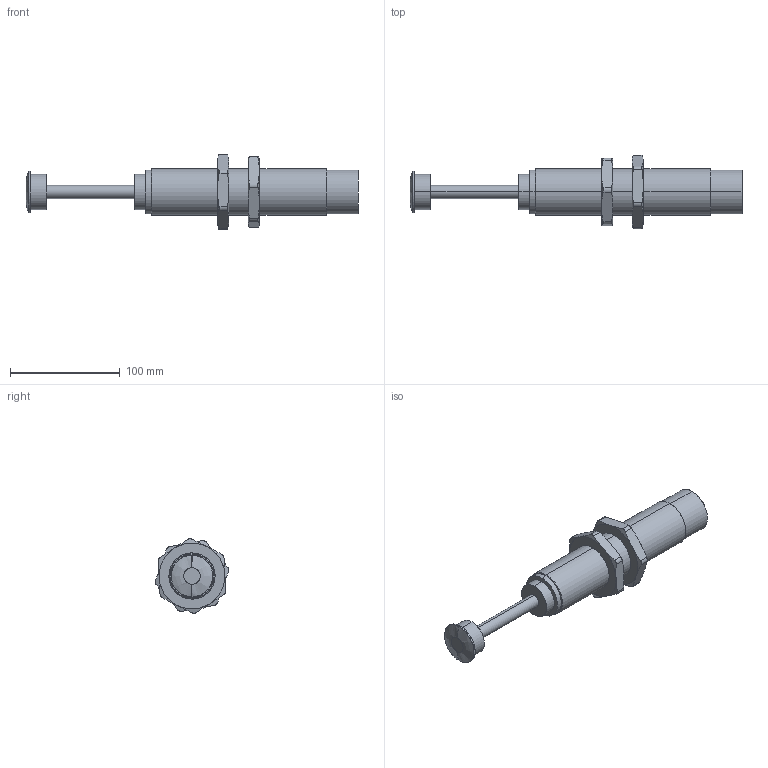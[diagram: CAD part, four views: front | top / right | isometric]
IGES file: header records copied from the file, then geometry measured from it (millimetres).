
Start section: SolidWorks IGES file using analytic representation for surfaces
Global section: file name: C:\Users\Sam Lin\Desktop\48\FSA-4280CC(CD).IGS; native system: SolidWorks 2013; preprocessor: SolidWorks 2013; author: Sam Lin; date: 160317.152534; units: metre
Bounding box: 302.5 x 67.01 x 67.95 mm (x, y, z)
Surface area: 49138.2 mm2 (no closed solid volume)
Topology: 0 solids, 0 shells, 84 faces, 1992 edges, 1992 vertices
Faces by surface type: bspline 50, revolution 34
